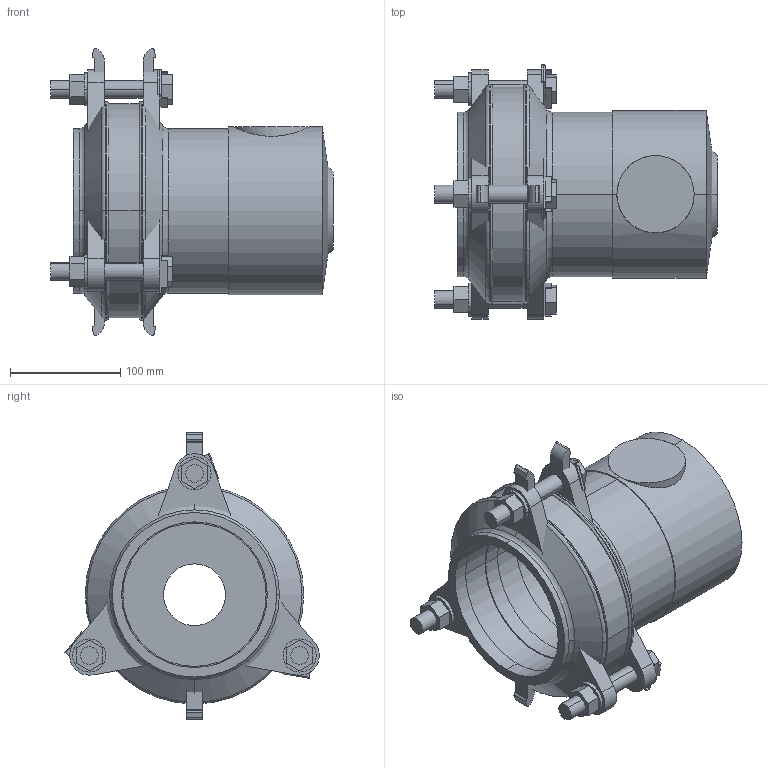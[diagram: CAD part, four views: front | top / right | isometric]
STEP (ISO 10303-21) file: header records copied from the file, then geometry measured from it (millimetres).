
FILE_DESCRIPTION(('STEP AP214'),'1');
FILE_NAME('HDA1004430 DN 100 axial.STP','2015-02-06T10:02:00',(' '),(' '),'Spatial InterOp 3D',' ',' ');
FILE_SCHEMA(('automotive_design'));
Length unit declared in the file: millimetre
Products named in the file (34): 3D-Objekt
Bounding box: 256 x 230.5 x 260 mm (x, y, z)
Volume: 1808117.5 mm3; surface area: 496636.8 mm2
Topology: 34 solids, 34 shells, 279 faces, 620 edges, 410 vertices
Faces by surface type: plane 180, cylinder 75, cone 12, torus 12
Entity records: 10903 total; most frequent: CARTESIAN_POINT 1474, DIRECTION 1446, ORIENTED_EDGE 1240, EDGE_CURVE 620, AXIS2_PLACEMENT_3D 515, LINE 416, VECTOR 416, VERTEX_POINT 410
